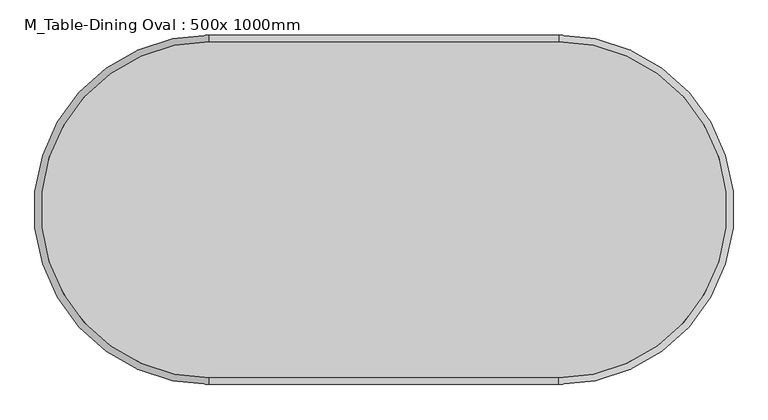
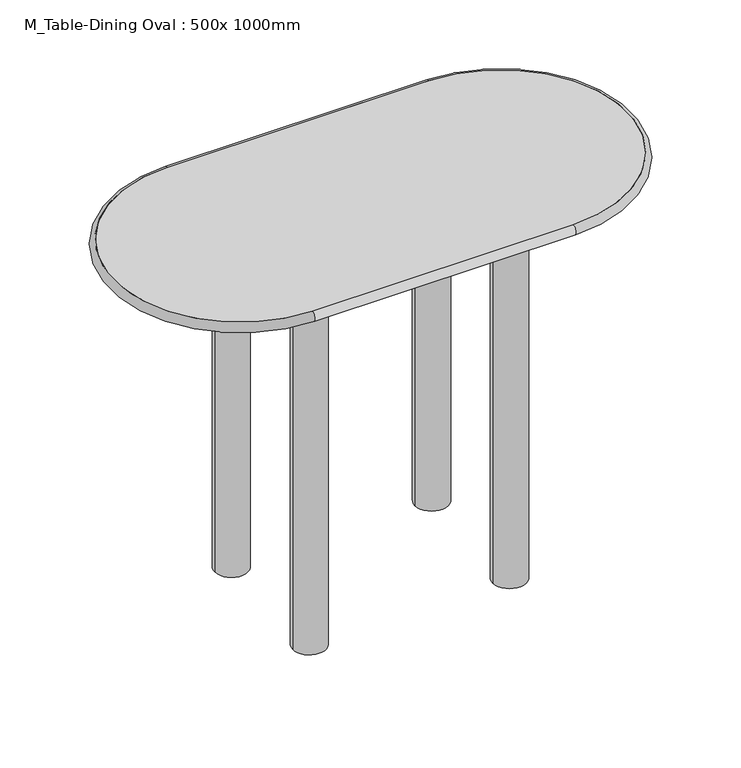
"""IFC4 building model written with IfcOpenShell, lengths in millimetres: furniture geometry, M_Table-Dining Oval : 500x 1000mm."""

from ifc_helpers import new_model, si_unit, point, frame, frame_2d, origin, origin_with_axes, place, context, project, spatial, polyline, circle_curve, ellipse_curve, trimmed, segment, composite_curve, outline, extrude, source, transform, mapped, element, save
from ifc_brep_helpers import plane_surface, cylinder_surface, revolved_surface, advanced_brep


def m_table_dining_oval_500x_1000mm_d5481309(model_context):
    return source(origin(), model_context, "Body", "SolidModel", [
        advanced_brep(
        [(-651.8196721, 598.5733607, 762.0), (-151.8196721, 598.5733607, 762.0), (-151.8196721, 598.5733607, 742.95), (-651.8196721, 598.5733607, 742.95), (-151.8196721, 117.6233607, 762.0), (-151.8196721, 117.6233607, 742.95), (-651.8196721, 117.6233607, 762.0), (-651.8196721, 117.6233607, 742.95)],
        [
            (0, 1),
            (1, 2, circle_curve(frame((-151.8196721, 598.5733607, 752.475), z_axis=(-1.0, 0.0, 0.0), x_axis=(0.0, -1.0, 0.0)), 9.525)),
            (2, 3),
            (3, 0, circle_curve(frame((-651.8196721, 598.5733607, 752.475), z_axis=(1.0, 0.0, 0.0), x_axis=(0.0, -1.0, 0.0)), 9.525)),
            (2, 1),
            (0, 3),
            (4, 5, circle_curve(frame((-151.8196721, 117.6233607, 752.475), z_axis=(1.0, 0.0, 0.0), x_axis=(0.0, 1.0, 0.0)), 9.525)),
            (5, 2, circle_curve(frame((-151.8196721, 358.0983607, 742.95), z_axis=(0.0, 0.0, 1.0), x_axis=(0.0, 1.0, 0.0)), 240.475)),
            (1, 4, circle_curve(frame((-151.8196721, 358.0983607, 762.0), z_axis=(0.0, 0.0, -1.0), x_axis=(0.0, 1.0, 0.0)), 240.475)),
            (5, 4),
            (4, 6),
            (6, 7, circle_curve(frame((-651.8196721, 117.6233607, 752.475), z_axis=(1.0, 0.0, 0.0), x_axis=(0.0, 1.0, 0.0)), 9.525)),
            (7, 5),
            (7, 6),
            (3, 7, circle_curve(frame((-651.8196721, 358.0983607, 742.95), z_axis=(0.0, 0.0, 1.0), x_axis=(0.0, -1.0, 0.0)), 240.475)),
            (6, 0, circle_curve(frame((-651.8196721, 358.0983607, 762.0), z_axis=(0.0, 0.0, -1.0), x_axis=(0.0, -1.0, 0.0)), 240.475)),
        ],
        [
            cylinder_surface(frame((-651.8196721, 598.5733607, 752.475), z_axis=(-1.0, 0.0, 0.0), x_axis=(0.0, -1.0, 0.0)), 9.525),
            plane_surface(frame((-651.8196721, 598.5733607, 762.0), z_axis=(0.0, -1.0, 0.0), x_axis=(1.0, 0.0, 0.0))),
            revolved_surface(trimmed(ellipse_curve(frame((-151.8196721, 598.5733607, 752.475), z_axis=(1.0, 0.0, 0.0), x_axis=(0.0, -1.0, 0.0)), 9.525, 9.525), [point((-151.8196721, 598.5733607, 742.95))], [point((-151.8196721, 598.5733607, 762.0))], True, "CARTESIAN"), (-151.8196721, 358.0983607, 0.0), (0.0, 0.0, 1.0)),
            revolved_surface(polyline([(-151.8196721, 598.5733607, 762.0), (-151.8196721, 598.5733607, 742.95)]), (-151.8196721, 358.0983607, 0.0), (0.0, 0.0, 1.0)),
            cylinder_surface(frame((-151.8196721, 117.6233607, 752.475), z_axis=(1.0, 0.0, 0.0), x_axis=(0.0, 1.0, 0.0)), 9.525),
            plane_surface(frame((-151.8196721, 117.6233607, 762.0), z_axis=(0.0, 1.0, 0.0), x_axis=(-1.0, 0.0, 0.0))),
            revolved_surface(trimmed(ellipse_curve(frame((-651.8196721, 117.6233607, 752.475), z_axis=(-1.0, 0.0, 0.0), x_axis=(0.0, 1.0, 0.0)), 9.525, 9.525), [point((-651.8196721, 117.6233607, 742.95))], [point((-651.8196721, 117.6233607, 762.0))], True, "CARTESIAN"), (-651.8196721, 358.0983607, 0.0), (0.0, 0.0, 1.0)),
            revolved_surface(polyline([(-651.8196721, 117.6233607, 762.0), (-651.8196721, 117.6233607, 742.95)]), (-651.8196721, 358.0983607, 0.0), (0.0, 0.0, 1.0)),
        ],
        [
            (0, [[1, 2, 3, 4]]),
            (1, [[-3, 5, -1, 6]]),
            (2, [[7, 8, -2, 9]]),
            (3, [[10, -9, -5, -8]]),
            (4, [[11, 12, 13, -7]]),
            (5, [[-13, 14, -11, -10]]),
            (6, [[-4, 15, -12, 16]]),
            (7, [[-6, -16, -14, -15]]),
        ],
    ),
        extrude(outline(composite_curve([segment(trimmed(circle_curve(frame_2d((-593.5446721, 228.7483607)), 31.75), [point((-625.2946721, 228.7483607))], [point((-561.7946721, 228.7483607))], False, "CARTESIAN"), True, "CONTINUOUS"), segment(trimmed(circle_curve(frame_2d((-593.5446721, 228.7483607)), 31.75), [point((-561.7946721, 228.7483607))], [point((-625.2946721, 228.7483607))], False, "CARTESIAN"), True, "CONTINUOUS")], self_intersect=False)), origin_with_axes(), (0.0, 0.0, 1.0), 742.95),
        extrude(outline(composite_curve([segment(trimmed(circle_curve(frame_2d((-593.5446721, 487.4483607)), 31.75), [point((-625.2946721, 487.4483607))], [point((-561.7946721, 487.4483607))], False, "CARTESIAN"), True, "CONTINUOUS"), segment(trimmed(circle_curve(frame_2d((-593.5446721, 487.4483607)), 31.75), [point((-561.7946721, 487.4483607))], [point((-625.2946721, 487.4483607))], False, "CARTESIAN"), True, "CONTINUOUS")], self_intersect=False)), origin_with_axes(), (0.0, 0.0, 1.0), 742.95),
        extrude(outline(composite_curve([segment(trimmed(circle_curve(frame_2d((-210.0946721, 228.7483607)), 31.75), [point((-241.8446721, 228.7483607))], [point((-178.3446721, 228.7483607))], False, "CARTESIAN"), True, "CONTINUOUS"), segment(trimmed(circle_curve(frame_2d((-210.0946721, 228.7483607)), 31.75), [point((-178.3446721, 228.7483607))], [point((-241.8446721, 228.7483607))], False, "CARTESIAN"), True, "CONTINUOUS")], self_intersect=False)), origin_with_axes(), (0.0, 0.0, 1.0), 742.95),
        extrude(outline(composite_curve([segment(trimmed(circle_curve(frame_2d((-210.0946721, 487.4483607)), 31.75), [point((-241.8446721, 487.4483607))], [point((-178.3446721, 487.4483607))], False, "CARTESIAN"), True, "CONTINUOUS"), segment(trimmed(circle_curve(frame_2d((-210.0946721, 487.4483607)), 31.75), [point((-178.3446721, 487.4483607))], [point((-241.8446721, 487.4483607))], False, "CARTESIAN"), True, "CONTINUOUS")], self_intersect=False)), origin_with_axes(), (0.0, 0.0, 1.0), 742.95),
        extrude(outline(polyline([(-191.0446721, 209.6983607), (-612.5946721, 209.6983607), (-612.5946721, 506.4983607), (-191.0446721, 506.4983607), (-191.0446721, 209.6983607)]), holes=[polyline([(-210.0946721, 228.7483607), (-210.0946721, 487.4483607), (-593.5446721, 487.4483607), (-593.5446721, 228.7483607), (-210.0946721, 228.7483607)])]), frame((0.0, 0.0, 692.15), z_axis=(0.0, 0.0, 1.0), x_axis=(1.0, 0.0, 0.0)), (0.0, 0.0, 1.0), 50.8),
        extrude(outline(composite_curve([segment(trimmed(circle_curve(frame_2d((-651.8196721, 358.0983607)), 240.475), [point((-651.8196721, 117.6233607))], [point((-892.2946721, 358.0983607))], False, "CARTESIAN"), True, "CONTINUOUS"), segment(trimmed(circle_curve(frame_2d((-651.8196721, 358.0983607)), 240.475), [point((-892.2946721, 358.0983607))], [point((-651.8196721, 598.5733607))], False, "CARTESIAN"), True, "CONTINUOUS"), segment(polyline([(-651.8196721, 598.5733607), (-151.8196721, 598.5733607)]), True, "CONTINUOUS"), segment(trimmed(circle_curve(frame_2d((-151.8196721, 358.0983607)), 240.475), [point((-151.8196721, 598.5733607))], [point((88.6553279, 358.0983607))], False, "CARTESIAN"), True, "CONTINUOUS"), segment(trimmed(circle_curve(frame_2d((-151.8196721, 358.0983607)), 240.475), [point((88.6553279, 358.0983607))], [point((-151.8196721, 117.6233607))], False, "CARTESIAN"), True, "CONTINUOUS"), segment(polyline([(-151.8196721, 117.6233607), (-651.8196721, 117.6233607)]), True, "CONTINUOUS")], self_intersect=False)), frame((0.0, 0.0, 742.95), z_axis=(0.0, 0.0, 1.0), x_axis=(1.0, 0.0, 0.0)), (0.0, 0.0, 1.0), 19.05),
    ])


if __name__ == "__main__":
    model = new_model("IFC4")
    model_context = context("Model", 3, world=origin())
    ifc_project = project(units=[si_unit("LENGTHUNIT", "METRE", prefix="MILLI")], contexts=[model_context])
    site = spatial("IfcSite", under=ifc_project)
    building = spatial("IfcBuilding", under=site)
    placement = place(None, origin())
    m_table_dining_oval_500x_1000mm_shape = m_table_dining_oval_500x_1000mm_d5481309(model_context)
    element("IfcFurniture", 1, ObjectType="M_Table-Dining Oval : 500x 1000mm", at=placement, inside=building, context=model_context, shape_type="MappedRepresentation", body=[
        mapped(m_table_dining_oval_500x_1000mm_shape, transform((0.0, 0.0, 0.0), x_axis=(1.0, 0.0, 0.0), y_axis=(0.0, 1.0, 0.0), z_axis=(0.0, 0.0, 1.0))),
    ])
    save(model, "model.ifc")
